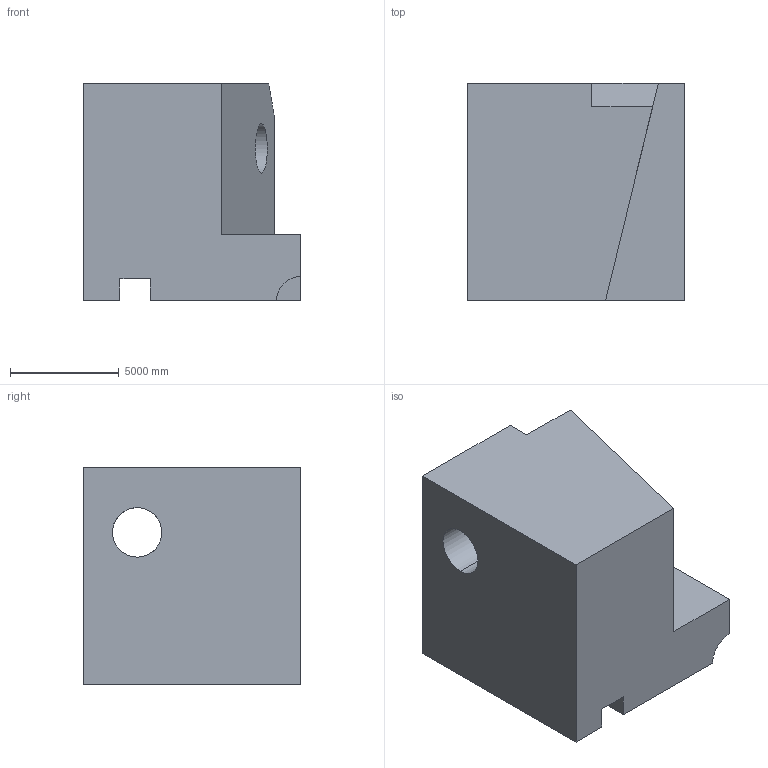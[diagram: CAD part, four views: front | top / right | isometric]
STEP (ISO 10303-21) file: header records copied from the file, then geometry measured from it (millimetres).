
FILE_DESCRIPTION (( 'STEP AP203' ), '1' );
FILE_NAME ('1458.STEP', '2022-08-18T14:35:52', ( 'user' ), ( '' ), 'SwSTEP 2.0', 'SolidWorks 2021', '' );
FILE_SCHEMA (( 'CONFIG_CONTROL_DESIGN' ));
Length unit declared in the file: centimetre
Products named in the file (1): 1458
Bounding box: 10000 x 10000 x 10000 mm (x, y, z)
Volume: 775181216717.3 mm3; surface area: 630475891.2 mm2
Topology: 1 solids, 1 shells, 18 faces, 48 edges, 32 vertices
Faces by surface type: plane 15, cylinder 3
Entity records: 637 total; most frequent: CARTESIAN_POINT 105, ORIENTED_EDGE 96, DIRECTION 88, EDGE_CURVE 48, LINE 42, VECTOR 42, VERTEX_POINT 32, AXIS2_PLACEMENT_3D 23
